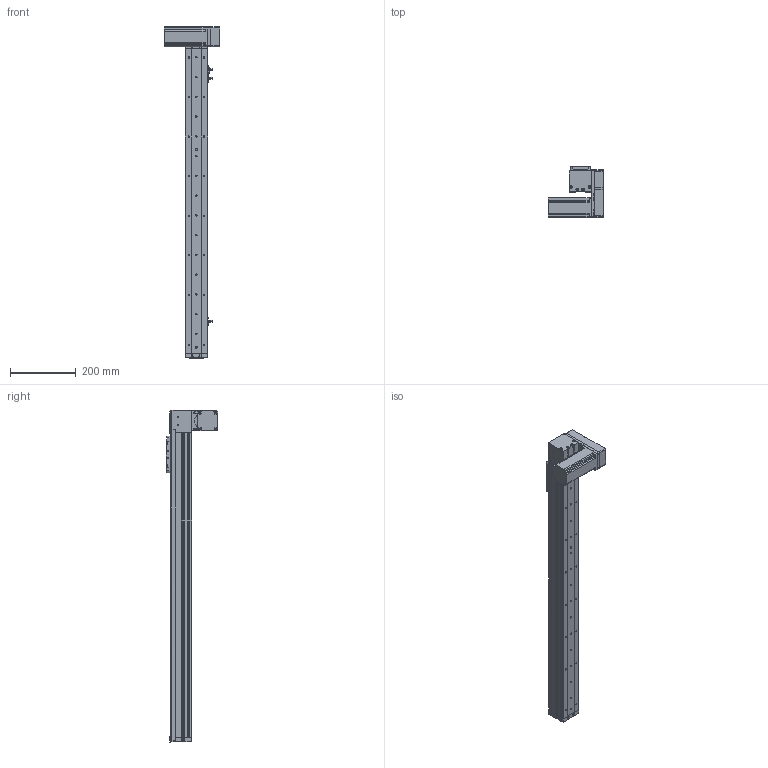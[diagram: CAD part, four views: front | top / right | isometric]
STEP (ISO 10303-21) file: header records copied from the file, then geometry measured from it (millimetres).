
FILE_DESCRIPTION (( 'STEP AP214' ), '1' );
FILE_NAME ('KSD68BS-S750-MLD-CR.STEP', '2019-11-07T05:36:58', ( '微软用户' ), ( '微软中国' ), 'SwSTEP 2.0', 'SolidWorks 2014', '' );
FILE_SCHEMA (( 'AUTOMOTIVE_DESIGN' ));
Length unit declared in the file: millimetre
Products named in the file (14): KSD68BS-S750-MLD-CR; 68遵裔啣揤啣1; 68宽单导轨全封闭丝杆传动安装板1防护罩; KSD68BS 750行程盖板全封闭; KSD68BS 750行程侧板全封闭; 68宽单导轨全封闭同步带端板; 68单导轨全封闭同步带电机座左; 68单导轨全封闭同步带安装板; 悵誘欶奻狟殏; 68宽马达安装板连板上折同步带; 感应片68宽全封闭; U倰嫖萇EEㄜSX672; 台达ECMA－C20604AS伺服电机（400W); KSD68BS 750行程底板全封闭
Assembly tree (17 placements, depth 2):
  KSD68BS-S750-MLD-CR
    KSD68BS 750行程底板全封闭
    台达ECMA－C20604AS伺服电机（400W)
    U倰嫖萇EEㄜSX672  x3
    感应片68宽全封闭
    68宽马达安装板连板上折同步带
    悵誘欶奻狟殏
    68单导轨全封闭同步带安装板
    68单导轨全封闭同步带电机座左
    68宽单导轨全封闭同步带端板
    KSD68BS 750行程侧板全封闭  x2
    68宽单导轨全封闭丝杆传动安装板1防护罩
    68遵裔啣揤啣1  x2
    KSD68BS 750行程盖板全封闭
Bounding box: 167.2 x 155.5 x 1008.1 mm (x, y, z)
Volume: 2199688.4 mm3; surface area: 813021.1 mm2
Topology: 18 solids, 18 shells, 1457 faces, 4127 edges, 2646 vertices
Faces by surface type: cylinder 680, plane 625, cone 152
Entity records: 45867 total; most frequent: CARTESIAN_POINT 7831, DIRECTION 6892, ORIENTED_EDGE 6598, EDGE_CURVE 3299, AXIS2_PLACEMENT_3D 2475, VERTEX_POINT 2164, VECTOR 1942, LINE 1942
